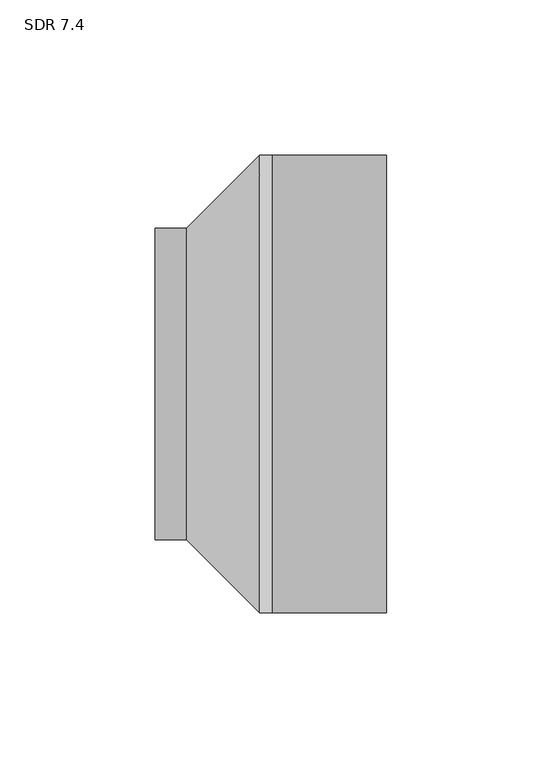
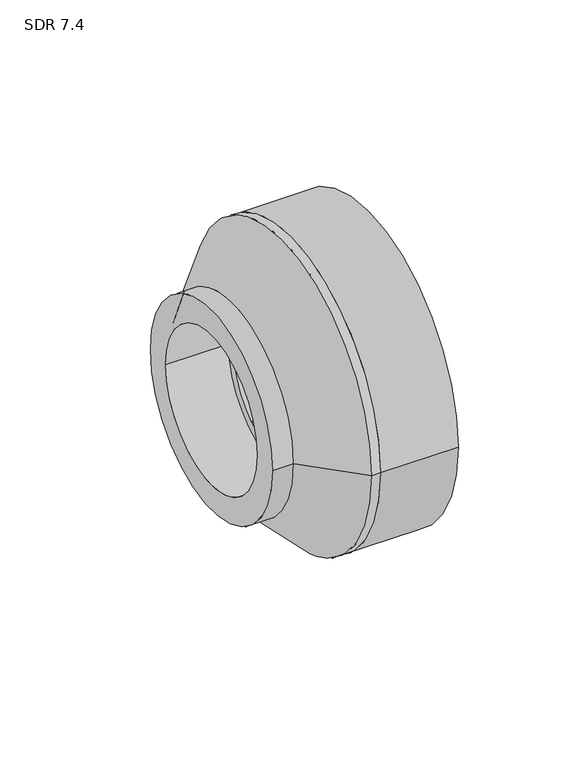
"""IFC4 building model written with IfcOpenShell, lengths in millimetres: pipe fitting geometry, Aquatherm - Reducing Coupling Combined - METRIC : SDR 7.4."""

from ifc_helpers import new_model, si_unit, point, frame, origin, origin_2d, place, context, project, spatial, polyline, circle_curve, trimmed, segment, composite_curve, outline, extrude, source, transform, mapped, element, save
from ifc_brep_helpers import plane_surface, cylinder_surface, revolved_surface, advanced_brep


def sdr_7_4_31bc1cf6(model_context):
    return source(origin(), model_context, "Body", "SolidModel", [
        advanced_brep(
        [(-4.064, 32.51, 0.0), (-4.064, -32.51, 0.0), (4.064, -32.51, 0.0), (4.064, 32.51, 0.0), (4.064, -73.533, 0.0), (4.064, 73.533, 0.0), (0.0, -73.533, 0.0), (0.0, 73.533, 0.0), (-23.495, -50.038, 0.0), (-23.495, 50.038, 0.0), (-33.528, 50.038, 0.0), (-33.528, -50.038, 0.0), (-33.528, 37.465, 0.0), (-33.528, -37.465, 0.0), (-4.064, -37.465, 0.0), (-4.064, 37.465, 0.0)],
        [
            (0, 1, circle_curve(frame((-4.064, 0.0, 0.0), z_axis=(-1.0, 0.0, 0.0), x_axis=(0.0, -1.0, 0.0)), 32.51)),
            (1, 2),
            (2, 3, circle_curve(frame((4.064, 0.0, 0.0), z_axis=(1.0, 0.0, 0.0), x_axis=(0.0, -1.0, 0.0)), 32.51)),
            (3, 0),
            (1, 0, circle_curve(frame((-4.064, 0.0, 0.0), z_axis=(-1.0, 0.0, 0.0), x_axis=(0.0, -1.0, 0.0)), 32.51)),
            (3, 2, circle_curve(frame((4.064, 0.0, 0.0), z_axis=(1.0, 0.0, 0.0), x_axis=(0.0, -1.0, 0.0)), 32.51)),
            (2, 4),
            (4, 5, circle_curve(frame((4.064, 0.0, 0.0), z_axis=(1.0, 0.0, 0.0), x_axis=(0.0, -1.0, 0.0)), 73.533)),
            (5, 3),
            (5, 4, circle_curve(frame((4.064, 0.0, 0.0), z_axis=(1.0, 0.0, 0.0), x_axis=(0.0, -1.0, 0.0)), 73.533)),
            (4, 6),
            (6, 7, circle_curve(frame((0.0, 0.0, 0.0), z_axis=(1.0, 0.0, 0.0), x_axis=(0.0, -1.0, 0.0)), 73.533)),
            (7, 5),
            (7, 6, circle_curve(frame((0.0, 0.0, 0.0), z_axis=(1.0, 0.0, 0.0), x_axis=(0.0, -1.0, 0.0)), 73.533)),
            (6, 8),
            (8, 9, circle_curve(frame((-23.495, 0.0, 0.0), z_axis=(1.0, 0.0, 0.0), x_axis=(0.0, -1.0, 0.0)), 50.038)),
            (9, 7),
            (9, 8, circle_curve(frame((-23.495, 0.0, 0.0), z_axis=(1.0, 0.0, 0.0), x_axis=(0.0, -1.0, 0.0)), 50.038)),
            (10, 11, circle_curve(frame((-33.528, 0.0, 0.0), z_axis=(-1.0, 0.0, 0.0), x_axis=(0.0, -1.0, 0.0)), 50.038)),
            (11, 10, circle_curve(frame((-33.528, 0.0, 0.0), z_axis=(-1.0, 0.0, 0.0), x_axis=(0.0, -1.0, 0.0)), 50.038)),
            (12, 13, circle_curve(frame((-33.528, 0.0, 0.0), z_axis=(1.0, 0.0, 0.0), x_axis=(0.0, -1.0, 0.0)), 37.465)),
            (13, 12, circle_curve(frame((-33.528, 0.0, 0.0), z_axis=(1.0, 0.0, 0.0), x_axis=(0.0, -1.0, 0.0)), 37.465)),
            (13, 14),
            (14, 15, circle_curve(frame((-4.064, 0.0, 0.0), z_axis=(1.0, 0.0, 0.0), x_axis=(0.0, -1.0, 0.0)), 37.465)),
            (15, 12),
            (15, 14, circle_curve(frame((-4.064, 0.0, 0.0), z_axis=(1.0, 0.0, 0.0), x_axis=(0.0, -1.0, 0.0)), 37.465)),
            (10, 9),
            (8, 11),
            (0, 15),
            (14, 1),
        ],
        [
            revolved_surface(polyline([(4.063999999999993, -32.51, 0.0), (-4.063999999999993, -32.51, 0.0)]), (71.12, 0.0, 0.0), (1.0, 0.0, 0.0)),
            plane_surface(frame((4.064, 0.0, 0.0), z_axis=(1.0, 0.0, 0.0), x_axis=(0.0, -1.0, 0.0))),
            cylinder_surface(frame((71.12, 0.0, 0.0), z_axis=(1.0, 0.0, 0.0), x_axis=(0.0, -1.0, 0.0)), 73.533),
            revolved_surface(polyline([(-23.495, -50.038, 0.0), (0.0, -73.533, 0.0)]), (71.12, 0.0, 0.0), (1.0, 0.0, 0.0)),
            plane_surface(frame((-33.528, -37.465, 0.0), z_axis=(-1.0, 0.0, 0.0), x_axis=(0.0, 0.0, -1.0))),
            revolved_surface(polyline([(-4.064, -37.465, 0.0), (-33.528, -37.465, 0.0)]), (-4.064, 0.0, 0.0), (1.0, 0.0, 0.0)),
            cylinder_surface(frame((0.0, 0.0, 0.0), z_axis=(-1.0, 0.0, 0.0), x_axis=(0.0, -1.0, 0.0)), 50.038),
            plane_surface(frame((-4.064, 0.0, 0.0), z_axis=(-1.0, 0.0, 0.0), x_axis=(0.0, -1.0, 0.0))),
        ],
        [
            (0, [[1, 2, 3, 4]]),
            (0, [[-2, 5, -4, 6]]),
            (1, [[-3, 7, 8, 9]]),
            (1, [[-6, -9, 10, -7]]),
            (2, [[-8, 11, 12, 13]]),
            (2, [[-10, -13, 14, -11]]),
            (3, [[-12, 15, 16, 17]]),
            (3, [[-14, -17, 18, -15]]),
            (4, [[19, 20], [21, 22]]),
            (5, [[-22, 23, 24, 25]]),
            (5, [[-21, -25, 26, -23]]),
            (6, [[-19, 27, -16, 28]]),
            (6, [[-20, -28, -18, -27]]),
            (7, [[-1, 29, -24, 30]]),
            (7, [[-5, -30, -26, -29]]),
        ],
    ),
        extrude(outline(composite_curve([segment(trimmed(circle_curve(origin_2d(), 73.533), [point((73.533, 0.0))], [point((-73.533, 0.0))], False, "CARTESIAN"), True, "CONTINUOUS"), segment(trimmed(circle_curve(origin_2d(), 73.533), [point((-73.533, 0.0))], [point((73.533, 0.0))], False, "CARTESIAN"), True, "CONTINUOUS")], self_intersect=False), holes=[composite_curve([segment(trimmed(circle_curve(origin_2d(), 54.991), [point((54.991, 0.0))], [point((-54.991, 0.0))], True, "CARTESIAN"), True, "CONTINUOUS"), segment(trimmed(circle_curve(origin_2d(), 54.991), [point((-54.991, 0.0))], [point((54.991, 0.0))], True, "CARTESIAN"), True, "CONTINUOUS")], self_intersect=False)]), frame((4.064, 0.0, 0.0), z_axis=(1.0, 0.0, 0.0), x_axis=(0.0, 1.0, 0.0)), (0.0, 0.0, 1.0), 36.83),
    ])


if __name__ == "__main__":
    model = new_model("IFC4")
    model_context = context("Model", 3, world=origin())
    ifc_project = project(units=[si_unit("LENGTHUNIT", "METRE", prefix="MILLI")], contexts=[model_context])
    site = spatial("IfcSite", under=ifc_project)
    building = spatial("IfcBuilding", under=site)
    placement = place(None, origin())
    sdr_7_4_shape = sdr_7_4_31bc1cf6(model_context)
    element("IfcPipeFitting", 1, ObjectType="Aquatherm - Reducing Coupling Combined - METRIC : SDR 7.4", at=placement, inside=building, context=model_context, shape_type="MappedRepresentation", body=[
        mapped(sdr_7_4_shape, transform((0.0, 0.0, 0.0), x_axis=(1.0, 0.0, 0.0), y_axis=(0.0, 1.0, 0.0), z_axis=(0.0, 0.0, 1.0))),
    ])
    save(model, "model.ifc")
